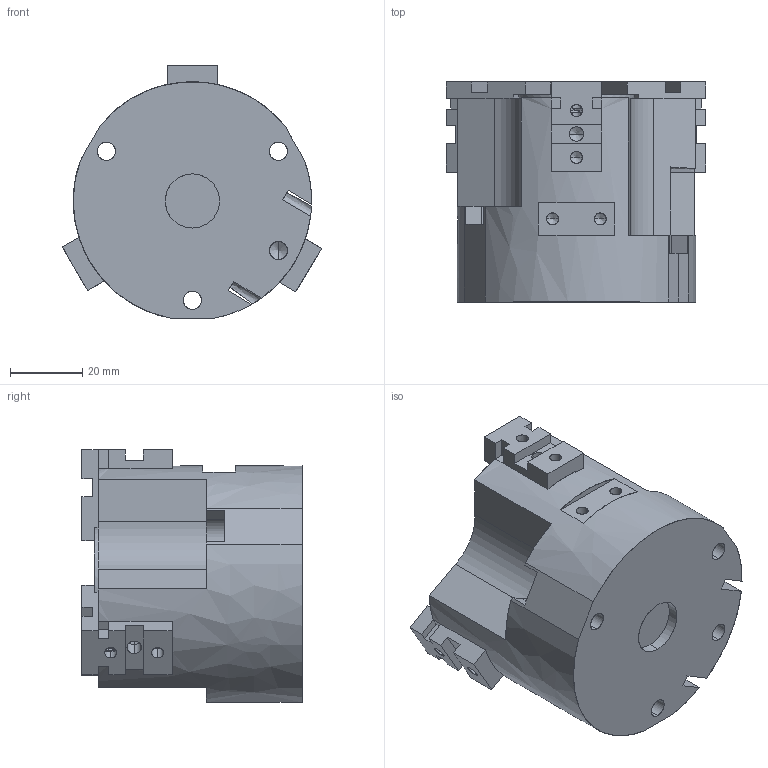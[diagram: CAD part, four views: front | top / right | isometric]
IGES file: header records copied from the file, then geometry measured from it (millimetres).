
Start section: SolidWorks IGES file using analytic representation for surfaces
Global section: file name: D:\Documents de SGA\Pieces 2D et 3D\OPE\OPE 65-3 S\OPE 65-3 S fermé.IGS; native system: SolidWorks 2010; preprocessor: SolidWorks 2010; author: SGA; date: 110929.100804; units: millimetre
Bounding box: 71.78 x 61 x 69.96 mm (x, y, z)
Surface area: 36536.8 mm2 (no closed solid volume)
Topology: 0 solids, 0 shells, 611 faces, 7173 edges, 7127 vertices
Faces by surface type: bspline 479, revolution 132
